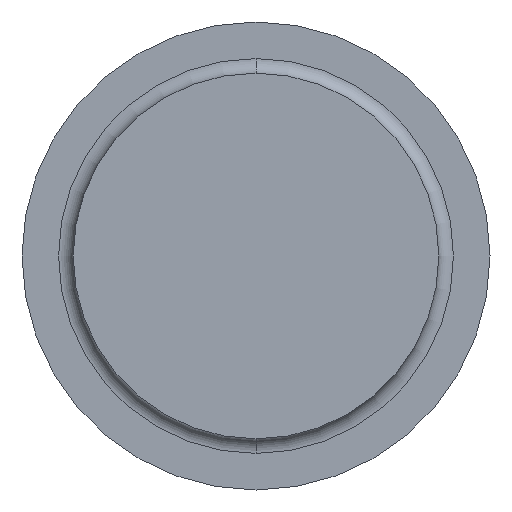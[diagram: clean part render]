
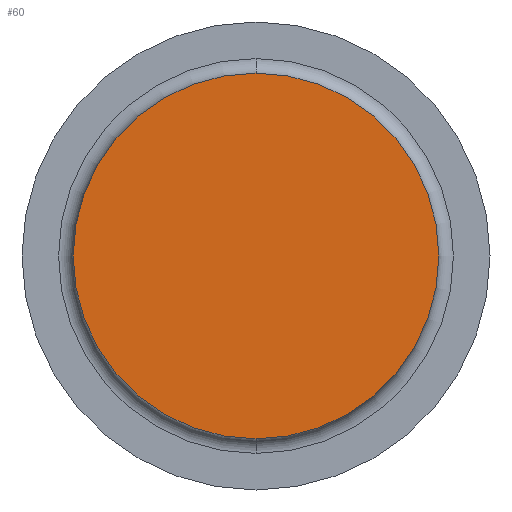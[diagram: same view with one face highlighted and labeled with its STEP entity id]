
A CAD part, front view. The second image highlights one B-rep face of the part: STEP entity #60.
In plain terms, the highlighted planar face has unit normal (0, -1, 0).
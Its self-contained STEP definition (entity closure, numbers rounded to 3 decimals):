
#24 = EDGE_CURVE ( 'NONE', #25, #26, #154, .T. ) ;
#25 = VERTEX_POINT ( 'NONE', #149 ) ;
#26 = VERTEX_POINT ( 'NONE', #148 ) ;
#60 = ADVANCED_FACE ( 'NONE', ( #216 ), #215, .F. ) ;
#61 = EDGE_LOOP ( 'NONE', ( #62, #63 ) ) ;
#62 = ORIENTED_EDGE ( 'NONE', *, *, #24, .F. ) ;
#63 = ORIENTED_EDGE ( 'NONE', *, *, #81, .F. ) ;
#81 = EDGE_CURVE ( 'NONE', #26, #25, #241, .T. ) ;
#148 = CARTESIAN_POINT ( 'NONE',  ( 0., -160., -12.5 ) ) ;
#149 = CARTESIAN_POINT ( 'NONE',  ( 0., -160., 12.5 ) ) ;
#150 = DIRECTION ( 'NONE',  ( 0., 0., 1. ) ) ;
#151 = DIRECTION ( 'NONE',  ( 0., 1., 0. ) ) ;
#152 = CARTESIAN_POINT ( 'NONE',  ( 0., -160., 0. ) ) ;
#153 = AXIS2_PLACEMENT_3D ( 'NONE', #152, #151, #150 ) ;
#154 = CIRCLE ( 'NONE', #153, 12.5 ) ;
#210 = DIRECTION ( 'NONE',  ( 0., 0., 1. ) ) ;
#211 = DIRECTION ( 'NONE',  ( 0., 1., 0. ) ) ;
#212 = CARTESIAN_POINT ( 'NONE',  ( 0., -160., 0. ) ) ;
#214 = AXIS2_PLACEMENT_3D ( 'NONE', #212, #211, #210 ) ;
#215 = PLANE ( 'NONE',  #214 ) ;
#216 = FACE_OUTER_BOUND ( 'NONE', #61, .T. ) ;
#237 = DIRECTION ( 'NONE',  ( 0., 0., 1. ) ) ;
#238 = DIRECTION ( 'NONE',  ( 0., 1., 0. ) ) ;
#239 = CARTESIAN_POINT ( 'NONE',  ( 0., -160., 0. ) ) ;
#240 = AXIS2_PLACEMENT_3D ( 'NONE', #239, #238, #237 ) ;
#241 = CIRCLE ( 'NONE', #240, 12.5 ) ;
